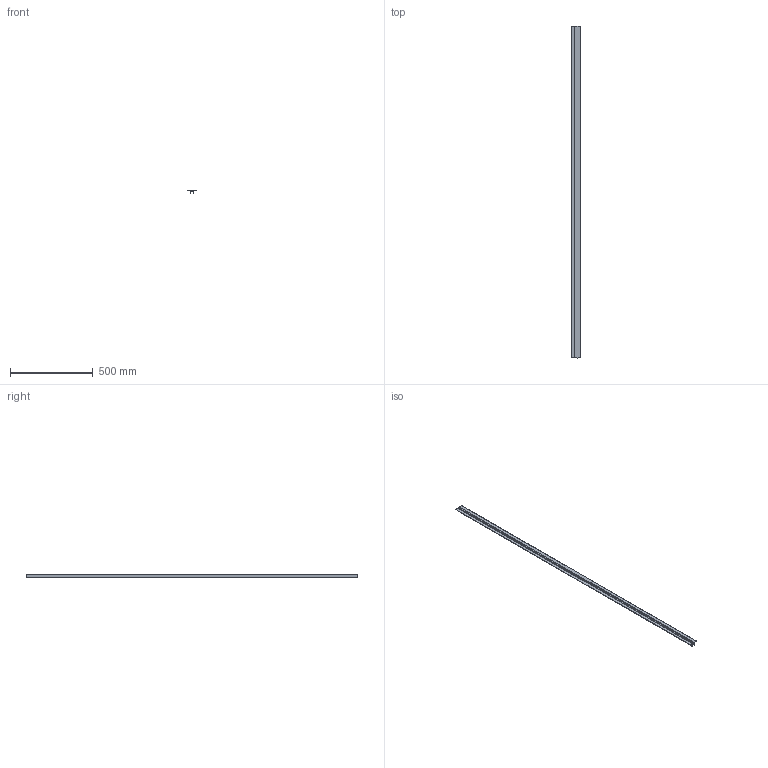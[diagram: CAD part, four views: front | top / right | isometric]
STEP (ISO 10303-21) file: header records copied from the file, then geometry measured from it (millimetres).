
FILE_DESCRIPTION(/* description */ (''),/* implementation_level */ '2;1');
FILE_NAME(/* name */ 'DL 2S C für Licht 3D',/* time_stamp */ '2025-09-16T18:11:18+02:00',/* author */ (''),/* organization */ (''),/* preprocessor_version */ 'ST-DEVELOPER v16.5',/* originating_system */ 'Rhino 7.38',/* authorisation */ '');
FILE_SCHEMA (('AUTOMOTIVE_DESIGN_CC2'));
Length unit declared in the file: millimetre
Products named in the file (1): Document
Bounding box: 54 x 2000 x 20.5 mm (x, y, z)
Volume: 245493 mm3; surface area: 376095 mm2
Topology: 1 solids, 1 shells, 69 faces, 201 edges, 134 vertices
Faces by surface type: bspline 69
Entity records: 4417 total; most frequent: CARTESIAN_POINT 2164, ORIENTED_EDGE 402, PCURVE 402, DEFINITIONAL_REPRESENTATION 402, B_SPLINE_CURVE_WITH_KNOTS 268, SURFACE_CURVE 201, EDGE_CURVE 201, VERTEX_POINT 134
